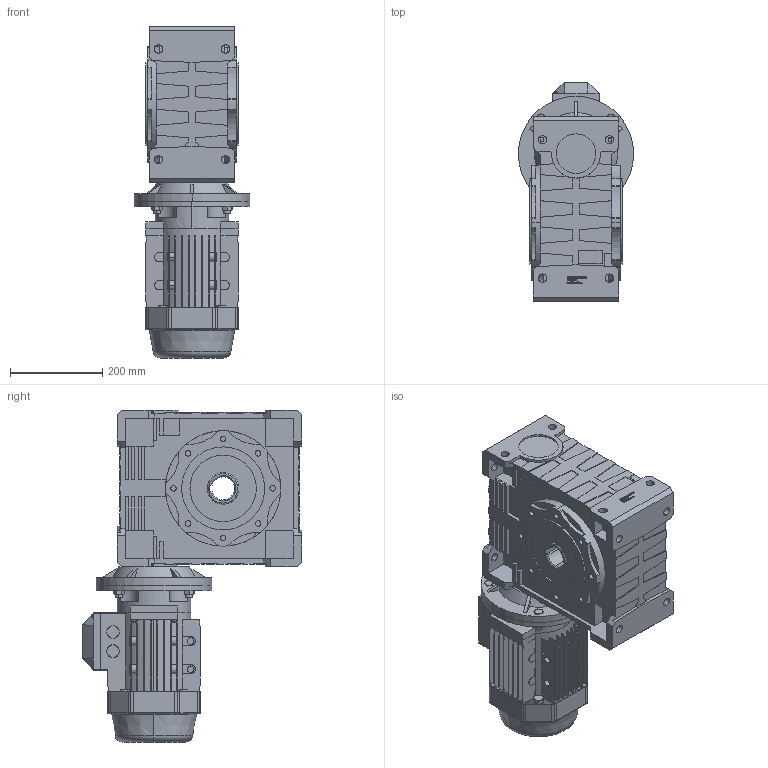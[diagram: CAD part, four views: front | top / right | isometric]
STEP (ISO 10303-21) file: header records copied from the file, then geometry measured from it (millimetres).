
FILE_DESCRIPTION (( 'STEP AP214' ), '1' );
FILE_NAME ('STP_NMRV150_112B5_112M_YE2_1_无_无结构附件_空心轴_无.step', '2022-12-11T12:50:31', ( 'IT Division' ), ( 'IT' ), 'SwSTEP 2.0', 'SolidWorks 2016', '' );
FILE_SCHEMA (( 'AUTOMOTIVE_DESIGN' ));
Length unit declared in the file: millimetre
Products named in the file (3): STP_NMRV150_112B5_112M_YE2_1_无_无结构附件_空心轴_无; STP_NMRV150_112B5_112M_YE2_1_无_无结构附件_空心轴_无_IEC电机; STP_NMRV150_112B5_112M_YE2_1_无_无结构附件_空心轴_无_NMRV
Assembly tree (2 placements, depth 2):
  STP_NMRV150_112B5_112M_YE2_1_无_无结构附件_空心轴_无
    STP_NMRV150_112B5_112M_YE2_1_无_无结构附件_空心轴_无_NMRV
    STP_NMRV150_112B5_112M_YE2_1_无_无结构附件_空心轴_无_IEC电机
Bounding box: 250 x 475 x 720.01 mm (x, y, z)
Volume: 29582305.4 mm3; surface area: 1664421.6 mm2
Topology: 8 solids, 8 shells, 2733 faces, 7379 edges, 4838 vertices
Faces by surface type: plane 1710, bspline 435, cylinder 414, cone 112, torus 60, sphere 2
Entity records: 106440 total; most frequent: CARTESIAN_POINT 38854, ORIENTED_EDGE 14750, DIRECTION 12148, EDGE_CURVE 7375, VECTOR 5114, LINE 5114, VERTEX_POINT 4836, AXIS2_PLACEMENT_3D 3517
